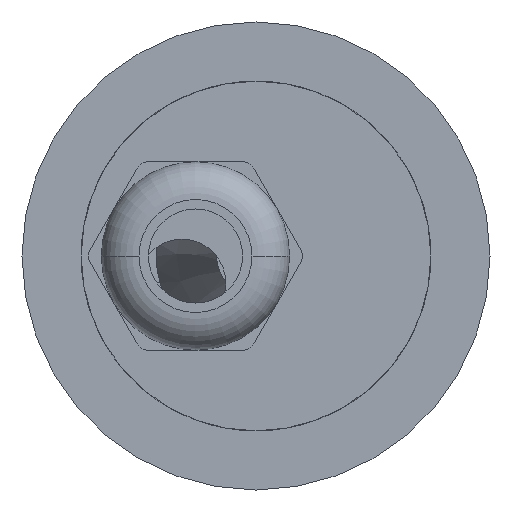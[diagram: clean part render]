
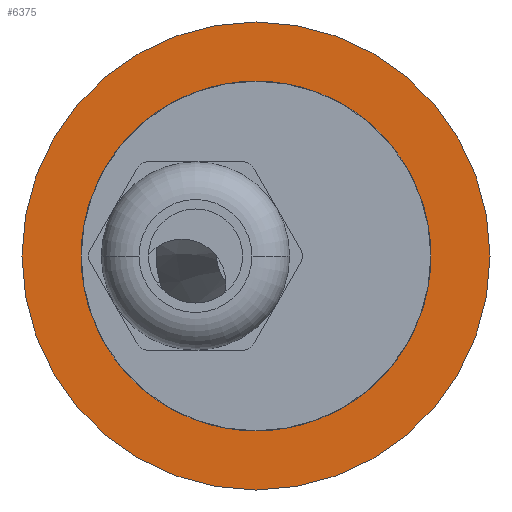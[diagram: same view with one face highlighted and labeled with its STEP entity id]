
A CAD part, front view. The second image highlights one B-rep face of the part: STEP entity #6375.
In plain terms, the highlighted planar face has unit normal (0, -1, 0).
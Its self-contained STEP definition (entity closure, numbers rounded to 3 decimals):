
#4483=CARTESIAN_POINT('',(13.,45.596,-13.003));
#4484=DIRECTION('',(0.,1.,0.));
#4485=DIRECTION('',(0.962,0.,-0.275));
#4486=AXIS2_PLACEMENT_3D('',#4483,#4484,#4485);
#4488=DIRECTION('',(0.,0.,-1.));
#4489=VECTOR('',#4488,7.141);
#4490=CARTESIAN_POINT('',(25.5,45.596,-9.432));
#4491=LINE('',#4490,#4489);
#4492=CARTESIAN_POINT('',(13.,45.596,-13.003));
#4493=DIRECTION('',(0.,-1.,0.));
#4494=DIRECTION('',(0.962,0.,0.275));
#4495=AXIS2_PLACEMENT_3D('',#4492,#4493,#4494);
#4497=DIRECTION('',(0.,0.,1.));
#4498=VECTOR('',#4497,7.141);
#4499=CARTESIAN_POINT('',(0.5,45.596,-16.573));
#4500=LINE('',#4499,#4498);
#4506=CARTESIAN_POINT('',(13.,45.596,-13.003));
#4507=DIRECTION('',(0.,-1.,0.));
#4508=DIRECTION('',(1.,0.,0.));
#4509=AXIS2_PLACEMENT_3D('',#4506,#4507,#4508);
#5260=CARTESIAN_POINT('',(13.,45.596,-13.003));
#5261=DIRECTION('',(0.,1.,0.));
#5262=DIRECTION('',(1.,0.,0.));
#5263=AXIS2_PLACEMENT_3D('',#5260,#5261,#5262);
#5995=CARTESIAN_POINT('',(30.4,45.596,-13.003));
#5996=CARTESIAN_POINT('',(-4.4,45.596,-13.003));
#5997=VERTEX_POINT('',#5995);
#5998=VERTEX_POINT('',#5996);
#6011=CARTESIAN_POINT('',(0.5,45.596,-16.573));
#6012=CARTESIAN_POINT('',(0.5,45.596,-9.432));
#6013=VERTEX_POINT('',#6011);
#6014=VERTEX_POINT('',#6012);
#6015=CARTESIAN_POINT('',(25.5,45.596,-9.432));
#6016=CARTESIAN_POINT('',(25.5,45.596,-16.573));
#6017=VERTEX_POINT('',#6015);
#6018=VERTEX_POINT('',#6016);
#6355=CARTESIAN_POINT('',(13.,45.596,-13.003));
#6356=DIRECTION('',(0.,-1.,0.));
#6357=DIRECTION('',(-1.,0.,0.));
#6358=AXIS2_PLACEMENT_3D('',#6355,#6356,#6357);
#6359=PLANE('',#6358);
#6361=ORIENTED_EDGE('',*,*,#6360,.F.);
#6363=ORIENTED_EDGE('',*,*,#6362,.T.);
#6364=EDGE_LOOP('',(#6361,#6363));
#6365=FACE_OUTER_BOUND('',#6364,.F.);
#6367=ORIENTED_EDGE('',*,*,#6366,.F.);
#6369=ORIENTED_EDGE('',*,*,#6368,.F.);
#6370=ORIENTED_EDGE('',*,*,#6346,.T.);
#6372=ORIENTED_EDGE('',*,*,#6371,.F.);
#6373=EDGE_LOOP('',(#6367,#6369,#6370,#6372));
#6374=FACE_BOUND('',#6373,.F.);
#6375=ADVANCED_FACE('',(#6365,#6374),#6359,.T.);
#4487=CIRCLE('',#4486,13.);
#4496=CIRCLE('',#4495,13.);
#4510=CIRCLE('',#4509,17.4);
#5264=CIRCLE('',#5263,17.4);
#6346=EDGE_CURVE('',#6017,#6014,#4496,.T.);
#6360=EDGE_CURVE('',#5997,#5998,#4510,.T.);
#6362=EDGE_CURVE('',#5997,#5998,#5264,.T.);
#6366=EDGE_CURVE('',#6018,#6013,#4487,.T.);
#6368=EDGE_CURVE('',#6017,#6018,#4491,.T.);
#6371=EDGE_CURVE('',#6013,#6014,#4500,.T.);
